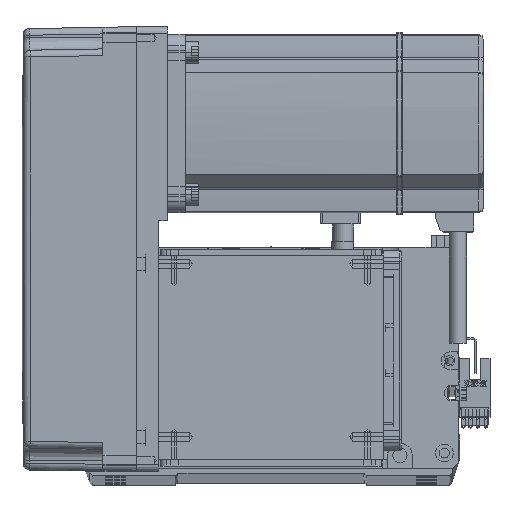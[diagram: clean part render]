
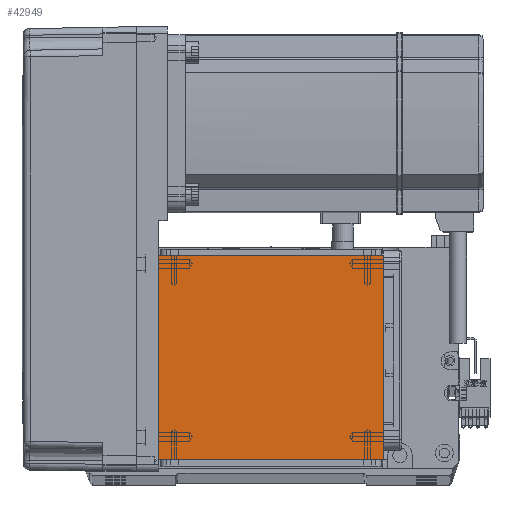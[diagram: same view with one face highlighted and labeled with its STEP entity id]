
A CAD part, top view. The second image highlights one B-rep face of the part: STEP entity #42949.
In plain terms, the highlighted planar face has unit normal (0, 0, 1).
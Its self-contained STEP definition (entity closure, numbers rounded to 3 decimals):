
#1008 = CARTESIAN_POINT ( 'NONE',  ( -70.004, 111.5, 115. ) ) ;
#1040 = CARTESIAN_POINT ( 'NONE',  ( 50.5, 20., 115. ) ) ;
#1589 = VECTOR ( 'NONE', #2062, 1000. ) ;
#2062 = DIRECTION ( 'NONE',  ( 0., 1., 0. ) ) ;
#3605 = VECTOR ( 'NONE', #60886, 1000. ) ;
#5388 = AXIS2_PLACEMENT_3D ( 'NONE', #5546, #36779, #16509 ) ;
#5546 = CARTESIAN_POINT ( 'NONE',  ( 0., 0., 115. ) ) ;
#8448 = FACE_OUTER_BOUND ( 'NONE', #55778, .T. ) ;
#8914 = CARTESIAN_POINT ( 'NONE',  ( -50.5, 20., 115. ) ) ;
#9953 = CARTESIAN_POINT ( 'NONE',  ( -50.5, 111.5, 115. ) ) ;
#10114 = VECTOR ( 'NONE', #53012, 1000. ) ;
#13450 = CARTESIAN_POINT ( 'NONE',  ( -50.5, 122., 115. ) ) ;
#16509 = DIRECTION ( 'NONE',  ( 1., 0., 0. ) ) ;
#17573 = CARTESIAN_POINT ( 'NONE',  ( -70.004, 20., 115. ) ) ;
#17614 = ORIENTED_EDGE ( 'NONE', *, *, #50298, .F. ) ;
#17905 = VERTEX_POINT ( 'NONE', #9953 ) ;
#19304 = VERTEX_POINT ( 'NONE', #8914 ) ;
#20605 = LINE ( 'NONE', #17573, #33142 ) ;
#29766 = EDGE_CURVE ( 'NONE', #17905, #19304, #36585, .T. ) ;
#30179 = CARTESIAN_POINT ( 'NONE',  ( 50.5, 122., 115. ) ) ;
#32421 = CARTESIAN_POINT ( 'NONE',  ( 50.5, 111.5, 115. ) ) ;
#33142 = VECTOR ( 'NONE', #42427, 1000. ) ;
#35001 = LINE ( 'NONE', #30179, #1589 ) ;
#36585 = LINE ( 'NONE', #13450, #10114 ) ;
#36720 = EDGE_CURVE ( 'NONE', #41391, #60663, #35001, .T. ) ;
#36779 = DIRECTION ( 'NONE',  ( 0., 0., 1. ) ) ;
#40268 = ORIENTED_EDGE ( 'NONE', *, *, #36720, .T. ) ;
#40897 = LINE ( 'NONE', #1008, #3605 ) ;
#40928 = PLANE ( 'NONE',  #5388 ) ;
#41391 = VERTEX_POINT ( 'NONE', #1040 ) ;
#42427 = DIRECTION ( 'NONE',  ( -1., 0., 0. ) ) ;
#42949 = ADVANCED_FACE ( 'NONE', ( #8448 ), #40928, .T. ) ;
#45876 = ORIENTED_EDGE ( 'NONE', *, *, #29766, .T. ) ;
#46708 = ORIENTED_EDGE ( 'NONE', *, *, #49538, .F. ) ;
#49538 = EDGE_CURVE ( 'NONE', #41391, #19304, #20605, .T. ) ;
#50298 = EDGE_CURVE ( 'NONE', #17905, #60663, #40897, .T. ) ;
#53012 = DIRECTION ( 'NONE',  ( 0., -1., 0. ) ) ;
#55778 = EDGE_LOOP ( 'NONE', ( #17614, #45876, #46708, #40268 ) ) ;
#60663 = VERTEX_POINT ( 'NONE', #32421 ) ;
#60886 = DIRECTION ( 'NONE',  ( 1., 0., 0. ) ) ;
